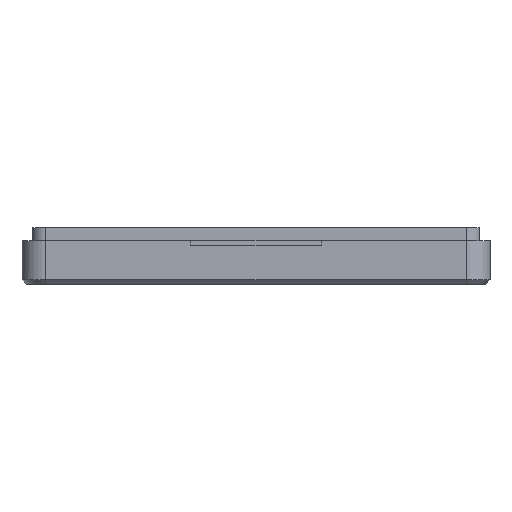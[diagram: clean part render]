
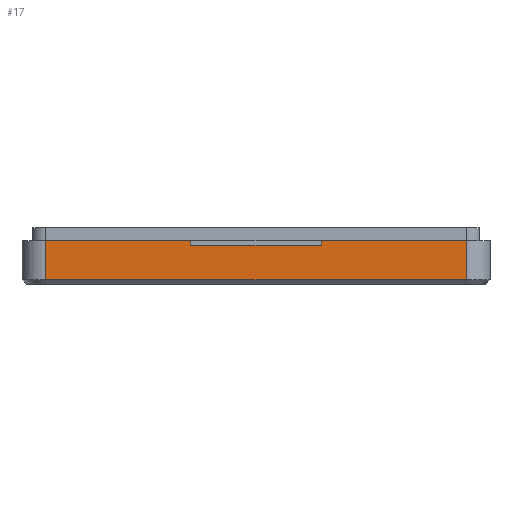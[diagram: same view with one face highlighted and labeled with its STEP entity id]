
A CAD part, left-side view. The second image highlights one B-rep face of the part: STEP entity #17.
In plain terms, the highlighted planar face has unit normal (-1, 0, 0).
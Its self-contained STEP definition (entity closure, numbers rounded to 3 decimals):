
#17 = ADVANCED_FACE('',(#18),#32,.F.);
#18 = FACE_BOUND('',#19,.F.);
#19 = EDGE_LOOP('',(#20,#55,#83,#111,#139,#165,#191,#217));
#20 = ORIENTED_EDGE('',*,*,#21,.F.);
#21 = EDGE_CURVE('',#22,#24,#26,.T.);
#22 = VERTEX_POINT('',#23);
#23 = CARTESIAN_POINT('',(-71.5,-35.5,0.8));
#24 = VERTEX_POINT('',#25);
#25 = CARTESIAN_POINT('',(-71.5,-35.5,7.4));
#26 = SURFACE_CURVE('',#27,(#31,#43),.PCURVE_S1.);
#27 = LINE('',#28,#29);
#28 = CARTESIAN_POINT('',(-71.5,-35.5,0.));
#29 = VECTOR('',#30,1.);
#30 = DIRECTION('',(0.,0.,1.));
#31 = PCURVE('',#32,#37);
#32 = PLANE('',#33);
#33 = AXIS2_PLACEMENT_3D('',#34,#35,#36);
#34 = CARTESIAN_POINT('',(-71.5,-39.5,0.));
#35 = DIRECTION('',(1.,0.,-0.));
#36 = DIRECTION('',(0.,0.,1.));
#37 = DEFINITIONAL_REPRESENTATION('',(#38),#42);
#38 = LINE('',#39,#40);
#39 = CARTESIAN_POINT('',(0.,-4.));
#40 = VECTOR('',#41,1.);
#41 = DIRECTION('',(1.,0.));
#42 = ( GEOMETRIC_REPRESENTATION_CONTEXT(2) 
PARAMETRIC_REPRESENTATION_CONTEXT() REPRESENTATION_CONTEXT('2D SPACE',''
  ) );
#43 = PCURVE('',#44,#49);
#44 = CYLINDRICAL_SURFACE('',#45,4.);
#45 = AXIS2_PLACEMENT_3D('',#46,#47,#48);
#46 = CARTESIAN_POINT('',(-67.5,-35.5,0.));
#47 = DIRECTION('',(0.,0.,1.));
#48 = DIRECTION('',(-1.,-0.,0.));
#49 = DEFINITIONAL_REPRESENTATION('',(#50),#54);
#50 = LINE('',#51,#52);
#51 = CARTESIAN_POINT('',(0.,0.));
#52 = VECTOR('',#53,1.);
#53 = DIRECTION('',(0.,1.));
#54 = ( GEOMETRIC_REPRESENTATION_CONTEXT(2) 
PARAMETRIC_REPRESENTATION_CONTEXT() REPRESENTATION_CONTEXT('2D SPACE',''
  ) );
#55 = ORIENTED_EDGE('',*,*,#56,.T.);
#56 = EDGE_CURVE('',#22,#57,#59,.T.);
#57 = VERTEX_POINT('',#58);
#58 = CARTESIAN_POINT('',(-71.5,35.5,0.8));
#59 = SURFACE_CURVE('',#60,(#64,#71),.PCURVE_S1.);
#60 = LINE('',#61,#62);
#61 = CARTESIAN_POINT('',(-71.5,-35.5,0.8));
#62 = VECTOR('',#63,1.);
#63 = DIRECTION('',(-0.,1.,0.));
#64 = PCURVE('',#32,#65);
#65 = DEFINITIONAL_REPRESENTATION('',(#66),#70);
#66 = LINE('',#67,#68);
#67 = CARTESIAN_POINT('',(0.8,-4.));
#68 = VECTOR('',#69,1.);
#69 = DIRECTION('',(0.,-1.));
#70 = ( GEOMETRIC_REPRESENTATION_CONTEXT(2) 
PARAMETRIC_REPRESENTATION_CONTEXT() REPRESENTATION_CONTEXT('2D SPACE',''
  ) );
#71 = PCURVE('',#72,#77);
#72 = PLANE('',#73);
#73 = AXIS2_PLACEMENT_3D('',#74,#75,#76);
#74 = CARTESIAN_POINT('',(-71.1,-35.5,0.4));
#75 = DIRECTION('',(-0.707,0.,-0.707)
  );
#76 = DIRECTION('',(0.,1.,0.));
#77 = DEFINITIONAL_REPRESENTATION('',(#78),#82);
#78 = LINE('',#79,#80);
#79 = CARTESIAN_POINT('',(0.,-0.566));
#80 = VECTOR('',#81,1.);
#81 = DIRECTION('',(1.,0.));
#82 = ( GEOMETRIC_REPRESENTATION_CONTEXT(2) 
PARAMETRIC_REPRESENTATION_CONTEXT() REPRESENTATION_CONTEXT('2D SPACE',''
  ) );
#83 = ORIENTED_EDGE('',*,*,#84,.T.);
#84 = EDGE_CURVE('',#57,#85,#87,.T.);
#85 = VERTEX_POINT('',#86);
#86 = CARTESIAN_POINT('',(-71.5,35.5,7.4));
#87 = SURFACE_CURVE('',#88,(#92,#99),.PCURVE_S1.);
#88 = LINE('',#89,#90);
#89 = CARTESIAN_POINT('',(-71.5,35.5,0.));
#90 = VECTOR('',#91,1.);
#91 = DIRECTION('',(0.,0.,1.));
#92 = PCURVE('',#32,#93);
#93 = DEFINITIONAL_REPRESENTATION('',(#94),#98);
#94 = LINE('',#95,#96);
#95 = CARTESIAN_POINT('',(0.,-75.));
#96 = VECTOR('',#97,1.);
#97 = DIRECTION('',(1.,0.));
#98 = ( GEOMETRIC_REPRESENTATION_CONTEXT(2) 
PARAMETRIC_REPRESENTATION_CONTEXT() REPRESENTATION_CONTEXT('2D SPACE',''
  ) );
#99 = PCURVE('',#100,#105);
#100 = CYLINDRICAL_SURFACE('',#101,4.);
#101 = AXIS2_PLACEMENT_3D('',#102,#103,#104);
#102 = CARTESIAN_POINT('',(-67.5,35.5,0.));
#103 = DIRECTION('',(0.,0.,1.));
#104 = DIRECTION('',(-1.,-0.,0.));
#105 = DEFINITIONAL_REPRESENTATION('',(#106),#110);
#106 = LINE('',#107,#108);
#107 = CARTESIAN_POINT('',(-0.,0.));
#108 = VECTOR('',#109,1.);
#109 = DIRECTION('',(-0.,1.));
#110 = ( GEOMETRIC_REPRESENTATION_CONTEXT(2) 
PARAMETRIC_REPRESENTATION_CONTEXT() REPRESENTATION_CONTEXT('2D SPACE',''
  ) );
#111 = ORIENTED_EDGE('',*,*,#112,.F.);
#112 = EDGE_CURVE('',#113,#85,#115,.T.);
#113 = VERTEX_POINT('',#114);
#114 = CARTESIAN_POINT('',(-71.5,11.,7.4));
#115 = SURFACE_CURVE('',#116,(#120,#127),.PCURVE_S1.);
#116 = LINE('',#117,#118);
#117 = CARTESIAN_POINT('',(-71.5,-39.5,7.4));
#118 = VECTOR('',#119,1.);
#119 = DIRECTION('',(-0.,1.,0.));
#120 = PCURVE('',#32,#121);
#121 = DEFINITIONAL_REPRESENTATION('',(#122),#126);
#122 = LINE('',#123,#124);
#123 = CARTESIAN_POINT('',(7.4,0.));
#124 = VECTOR('',#125,1.);
#125 = DIRECTION('',(0.,-1.));
#126 = ( GEOMETRIC_REPRESENTATION_CONTEXT(2) 
PARAMETRIC_REPRESENTATION_CONTEXT() REPRESENTATION_CONTEXT('2D SPACE',''
  ) );
#127 = PCURVE('',#128,#133);
#128 = PLANE('',#129);
#129 = AXIS2_PLACEMENT_3D('',#130,#131,#132);
#130 = CARTESIAN_POINT('',(-71.5,-39.5,7.4));
#131 = DIRECTION('',(0.,0.,1.));
#132 = DIRECTION('',(1.,0.,-0.));
#133 = DEFINITIONAL_REPRESENTATION('',(#134),#138);
#134 = LINE('',#135,#136);
#135 = CARTESIAN_POINT('',(0.,0.));
#136 = VECTOR('',#137,1.);
#137 = DIRECTION('',(0.,1.));
#138 = ( GEOMETRIC_REPRESENTATION_CONTEXT(2) 
PARAMETRIC_REPRESENTATION_CONTEXT() REPRESENTATION_CONTEXT('2D SPACE',''
  ) );
#139 = ORIENTED_EDGE('',*,*,#140,.F.);
#140 = EDGE_CURVE('',#141,#113,#143,.T.);
#141 = VERTEX_POINT('',#142);
#142 = CARTESIAN_POINT('',(-71.5,11.,6.6));
#143 = SURFACE_CURVE('',#144,(#148,#154),.PCURVE_S1.);
#144 = LINE('',#145,#146);
#145 = CARTESIAN_POINT('',(-71.5,11.,3.3));
#146 = VECTOR('',#147,1.);
#147 = DIRECTION('',(0.,0.,1.));
#148 = PCURVE('',#32,#149);
#149 = DEFINITIONAL_REPRESENTATION('',(#150),#153);
#150 = B_SPLINE_CURVE_WITH_KNOTS('',1,(#151,#152),.UNSPECIFIED.,.F.,.F.,
  (2,2),(3.3,4.1),.PIECEWISE_BEZIER_KNOTS.);
#151 = CARTESIAN_POINT('',(6.6,-50.5));
#152 = CARTESIAN_POINT('',(7.4,-50.5));
#153 = ( GEOMETRIC_REPRESENTATION_CONTEXT(2) 
PARAMETRIC_REPRESENTATION_CONTEXT() REPRESENTATION_CONTEXT('2D SPACE',''
  ) );
#154 = PCURVE('',#155,#160);
#155 = PLANE('',#156);
#156 = AXIS2_PLACEMENT_3D('',#157,#158,#159);
#157 = CARTESIAN_POINT('',(-72.4,11.,6.6));
#158 = DIRECTION('',(-0.,1.,0.));
#159 = DIRECTION('',(0.,0.,1.));
#160 = DEFINITIONAL_REPRESENTATION('',(#161),#164);
#161 = B_SPLINE_CURVE_WITH_KNOTS('',1,(#162,#163),.UNSPECIFIED.,.F.,.F.,
  (2,2),(3.3,4.1),.PIECEWISE_BEZIER_KNOTS.);
#162 = CARTESIAN_POINT('',(0.,0.9));
#163 = CARTESIAN_POINT('',(0.8,0.9));
#164 = ( GEOMETRIC_REPRESENTATION_CONTEXT(2) 
PARAMETRIC_REPRESENTATION_CONTEXT() REPRESENTATION_CONTEXT('2D SPACE',''
  ) );
#165 = ORIENTED_EDGE('',*,*,#166,.T.);
#166 = EDGE_CURVE('',#141,#167,#169,.T.);
#167 = VERTEX_POINT('',#168);
#168 = CARTESIAN_POINT('',(-71.5,-11.,6.6));
#169 = SURFACE_CURVE('',#170,(#174,#180),.PCURVE_S1.);
#170 = LINE('',#171,#172);
#171 = CARTESIAN_POINT('',(-71.5,-25.25,6.6));
#172 = VECTOR('',#173,1.);
#173 = DIRECTION('',(0.,-1.,0.));
#174 = PCURVE('',#32,#175);
#175 = DEFINITIONAL_REPRESENTATION('',(#176),#179);
#176 = B_SPLINE_CURVE_WITH_KNOTS('',1,(#177,#178),.UNSPECIFIED.,.F.,.F.,
  (2,2),(-36.25,-14.25),.PIECEWISE_BEZIER_KNOTS.);
#177 = CARTESIAN_POINT('',(6.6,-50.5));
#178 = CARTESIAN_POINT('',(6.6,-28.5));
#179 = ( GEOMETRIC_REPRESENTATION_CONTEXT(2) 
PARAMETRIC_REPRESENTATION_CONTEXT() REPRESENTATION_CONTEXT('2D SPACE',''
  ) );
#180 = PCURVE('',#181,#186);
#181 = PLANE('',#182);
#182 = AXIS2_PLACEMENT_3D('',#183,#184,#185);
#183 = CARTESIAN_POINT('',(-72.4,-11.,6.6));
#184 = DIRECTION('',(0.,0.,1.));
#185 = DIRECTION('',(1.,0.,-0.));
#186 = DEFINITIONAL_REPRESENTATION('',(#187),#190);
#187 = B_SPLINE_CURVE_WITH_KNOTS('',1,(#188,#189),.UNSPECIFIED.,.F.,.F.,
  (2,2),(-36.25,-14.25),.PIECEWISE_BEZIER_KNOTS.);
#188 = CARTESIAN_POINT('',(0.9,22.));
#189 = CARTESIAN_POINT('',(0.9,0.));
#190 = ( GEOMETRIC_REPRESENTATION_CONTEXT(2) 
PARAMETRIC_REPRESENTATION_CONTEXT() REPRESENTATION_CONTEXT('2D SPACE',''
  ) );
#191 = ORIENTED_EDGE('',*,*,#192,.T.);
#192 = EDGE_CURVE('',#167,#193,#195,.T.);
#193 = VERTEX_POINT('',#194);
#194 = CARTESIAN_POINT('',(-71.5,-11.,7.4));
#195 = SURFACE_CURVE('',#196,(#200,#206),.PCURVE_S1.);
#196 = LINE('',#197,#198);
#197 = CARTESIAN_POINT('',(-71.5,-11.,3.3));
#198 = VECTOR('',#199,1.);
#199 = DIRECTION('',(0.,0.,1.));
#200 = PCURVE('',#32,#201);
#201 = DEFINITIONAL_REPRESENTATION('',(#202),#205);
#202 = B_SPLINE_CURVE_WITH_KNOTS('',1,(#203,#204),.UNSPECIFIED.,.F.,.F.,
  (2,2),(3.3,4.1),.PIECEWISE_BEZIER_KNOTS.);
#203 = CARTESIAN_POINT('',(6.6,-28.5));
#204 = CARTESIAN_POINT('',(7.4,-28.5));
#205 = ( GEOMETRIC_REPRESENTATION_CONTEXT(2) 
PARAMETRIC_REPRESENTATION_CONTEXT() REPRESENTATION_CONTEXT('2D SPACE',''
  ) );
#206 = PCURVE('',#207,#212);
#207 = PLANE('',#208);
#208 = AXIS2_PLACEMENT_3D('',#209,#210,#211);
#209 = CARTESIAN_POINT('',(-72.4,-11.,6.6));
#210 = DIRECTION('',(-0.,1.,0.));
#211 = DIRECTION('',(0.,0.,1.));
#212 = DEFINITIONAL_REPRESENTATION('',(#213),#216);
#213 = B_SPLINE_CURVE_WITH_KNOTS('',1,(#214,#215),.UNSPECIFIED.,.F.,.F.,
  (2,2),(3.3,4.1),.PIECEWISE_BEZIER_KNOTS.);
#214 = CARTESIAN_POINT('',(0.,0.9));
#215 = CARTESIAN_POINT('',(0.8,0.9));
#216 = ( GEOMETRIC_REPRESENTATION_CONTEXT(2) 
PARAMETRIC_REPRESENTATION_CONTEXT() REPRESENTATION_CONTEXT('2D SPACE',''
  ) );
#217 = ORIENTED_EDGE('',*,*,#218,.F.);
#218 = EDGE_CURVE('',#24,#193,#219,.T.);
#219 = SURFACE_CURVE('',#220,(#224,#231),.PCURVE_S1.);
#220 = LINE('',#221,#222);
#221 = CARTESIAN_POINT('',(-71.5,-39.5,7.4));
#222 = VECTOR('',#223,1.);
#223 = DIRECTION('',(-0.,1.,0.));
#224 = PCURVE('',#32,#225);
#225 = DEFINITIONAL_REPRESENTATION('',(#226),#230);
#226 = LINE('',#227,#228);
#227 = CARTESIAN_POINT('',(7.4,0.));
#228 = VECTOR('',#229,1.);
#229 = DIRECTION('',(0.,-1.));
#230 = ( GEOMETRIC_REPRESENTATION_CONTEXT(2) 
PARAMETRIC_REPRESENTATION_CONTEXT() REPRESENTATION_CONTEXT('2D SPACE',''
  ) );
#231 = PCURVE('',#128,#232);
#232 = DEFINITIONAL_REPRESENTATION('',(#233),#237);
#233 = LINE('',#234,#235);
#234 = CARTESIAN_POINT('',(0.,0.));
#235 = VECTOR('',#236,1.);
#236 = DIRECTION('',(0.,1.));
#237 = ( GEOMETRIC_REPRESENTATION_CONTEXT(2) 
PARAMETRIC_REPRESENTATION_CONTEXT() REPRESENTATION_CONTEXT('2D SPACE',''
  ) );
